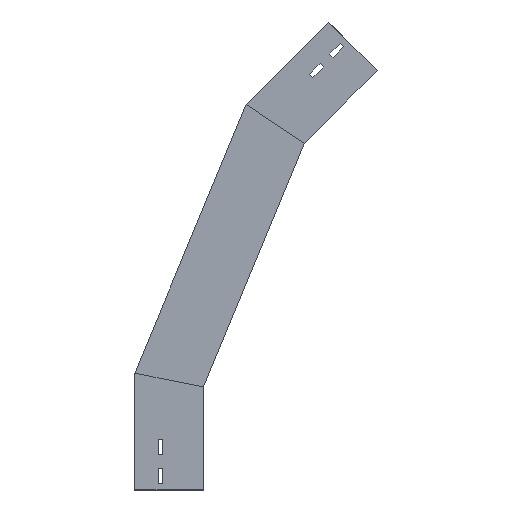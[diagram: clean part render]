
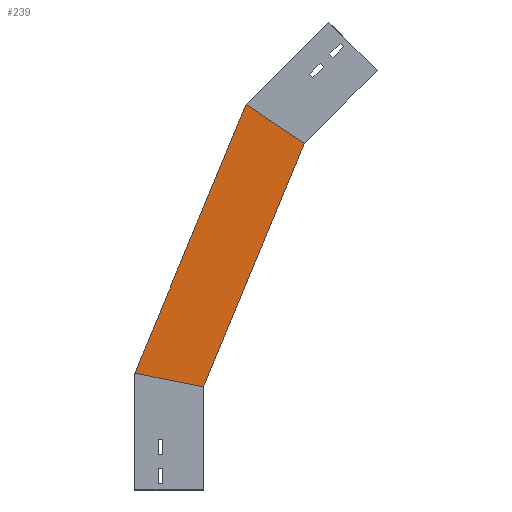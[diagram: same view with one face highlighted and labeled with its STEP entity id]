
A CAD part, left-side view. The second image highlights one B-rep face of the part: STEP entity #239.
In plain terms, the highlighted planar face has unit normal (-1, 0, 0) as drawn and (1, 0, 0) by its records, which use the part's own axes.
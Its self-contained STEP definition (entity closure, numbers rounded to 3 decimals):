
#5 = CARTESIAN_POINT ( 'NONE',  ( 0., 100., 169.891 ) ) ;
#74 = CARTESIAN_POINT ( 'NONE',  ( 0., -61.792, 560.491 ) ) ;
#81 = DIRECTION ( 'NONE',  ( 1., 0., 0. ) ) ;
#119 = CARTESIAN_POINT ( 'NONE',  ( 0., 8.412, 129.693 ) ) ;
#146 = DIRECTION ( 'NONE',  ( 0., -0.831, -0.556 ) ) ;
#200 = FACE_OUTER_BOUND ( 'NONE', #388, .T. ) ;
#215 = VERTEX_POINT ( 'NONE', #1476 ) ;
#239 = ADVANCED_FACE ( 'NONE', ( #200 ), #1259, .T. ) ;
#279 = LINE ( 'NONE', #743, #1244 ) ;
#317 = ORIENTED_EDGE ( 'NONE', *, *, #510, .T. ) ;
#371 = DIRECTION ( 'NONE',  ( 0., -0.383, 0.924 ) ) ;
#388 = EDGE_LOOP ( 'NONE', ( #1127, #317, #1242, #1085 ) ) ;
#395 = CARTESIAN_POINT ( 'NONE',  ( 0., 0., 150. ) ) ;
#437 = EDGE_CURVE ( 'NONE', #732, #1202, #1439, .T. ) ;
#510 = EDGE_CURVE ( 'NONE', #1202, #215, #279, .T. ) ;
#545 = LINE ( 'NONE', #1213, #945 ) ;
#657 = CARTESIAN_POINT ( 'NONE',  ( 0., 8.412, 129.693 ) ) ;
#663 = DIRECTION ( 'NONE',  ( 0., -0.383, 0.924 ) ) ;
#716 = CARTESIAN_POINT ( 'NONE',  ( 0., 100.799, 167.961 ) ) ;
#732 = VERTEX_POINT ( 'NONE', #5 ) ;
#743 = CARTESIAN_POINT ( 'NONE',  ( 0., -212.26, 459.952 ) ) ;
#773 = DIRECTION ( 'NONE',  ( 0., -0.981, -0.195 ) ) ;
#886 = LINE ( 'NONE', #119, #1483 ) ;
#945 = VECTOR ( 'NONE', #773, 1000. ) ;
#957 = EDGE_CURVE ( 'NONE', #732, #1241, #545, .T. ) ;
#962 = EDGE_CURVE ( 'NONE', #1241, #215, #886, .T. ) ;
#1085 = ORIENTED_EDGE ( 'NONE', *, *, #957, .F. ) ;
#1112 = VECTOR ( 'NONE', #371, 1000. ) ;
#1127 = ORIENTED_EDGE ( 'NONE', *, *, #437, .T. ) ;
#1202 = VERTEX_POINT ( 'NONE', #74 ) ;
#1213 = CARTESIAN_POINT ( 'NONE',  ( 0., -28.701, 144.291 ) ) ;
#1229 = DIRECTION ( 'NONE',  ( 0., 0., -1. ) ) ;
#1241 = VERTEX_POINT ( 'NONE', #395 ) ;
#1242 = ORIENTED_EDGE ( 'NONE', *, *, #962, .F. ) ;
#1244 = VECTOR ( 'NONE', #146, 1000. ) ;
#1259 = PLANE ( 'NONE',  #1434 ) ;
#1434 = AXIS2_PLACEMENT_3D ( 'NONE', #657, #81, #1229 ) ;
#1439 = LINE ( 'NONE', #716, #1112 ) ;
#1476 = CARTESIAN_POINT ( 'NONE',  ( 0., -146.568, 503.846 ) ) ;
#1483 = VECTOR ( 'NONE', #663, 1000. ) ;
